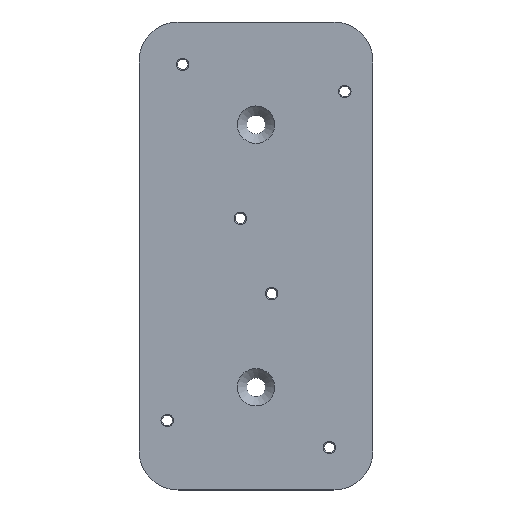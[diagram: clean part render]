
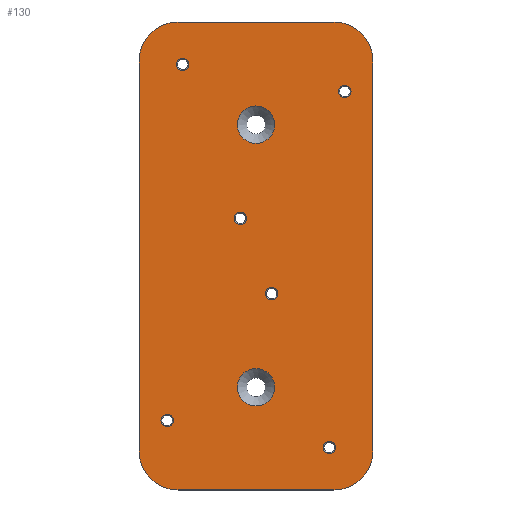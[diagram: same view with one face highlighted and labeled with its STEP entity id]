
A CAD part, top view. The second image highlights one B-rep face of the part: STEP entity #130.
In plain terms, the highlighted planar face has unit normal (0, 0, 1).
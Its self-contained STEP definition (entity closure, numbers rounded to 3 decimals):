
#66=FACE_BOUND('',#175,.T.);
#67=FACE_BOUND('',#176,.T.);
#68=FACE_BOUND('',#177,.T.);
#69=FACE_BOUND('',#178,.T.);
#70=FACE_BOUND('',#179,.T.);
#71=FACE_BOUND('',#180,.T.);
#72=FACE_BOUND('',#181,.T.);
#73=FACE_BOUND('',#182,.T.);
#74=FACE_BOUND('',#183,.T.);
#130=ADVANCED_FACE('',(#66,#67,#68,#69,#70,#71,#72,#73,#74),#161,.T.);
#161=PLANE('',#605);
#175=EDGE_LOOP('',(#255));
#176=EDGE_LOOP('',(#256));
#177=EDGE_LOOP('',(#257));
#178=EDGE_LOOP('',(#258));
#179=EDGE_LOOP('',(#259));
#180=EDGE_LOOP('',(#260));
#181=EDGE_LOOP('',(#261));
#182=EDGE_LOOP('',(#262));
#183=EDGE_LOOP('',(#263,#264,#265,#266,#267,#268,#269,#270));
#255=ORIENTED_EDGE('',*,*,#406,.T.);
#256=ORIENTED_EDGE('',*,*,#407,.T.);
#257=ORIENTED_EDGE('',*,*,#408,.F.);
#258=ORIENTED_EDGE('',*,*,#409,.F.);
#259=ORIENTED_EDGE('',*,*,#410,.F.);
#260=ORIENTED_EDGE('',*,*,#411,.F.);
#261=ORIENTED_EDGE('',*,*,#412,.F.);
#262=ORIENTED_EDGE('',*,*,#413,.F.);
#263=ORIENTED_EDGE('',*,*,#404,.T.);
#264=ORIENTED_EDGE('',*,*,#414,.T.);
#265=ORIENTED_EDGE('',*,*,#390,.T.);
#266=ORIENTED_EDGE('',*,*,#415,.T.);
#267=ORIENTED_EDGE('',*,*,#396,.T.);
#268=ORIENTED_EDGE('',*,*,#416,.T.);
#269=ORIENTED_EDGE('',*,*,#400,.T.);
#270=ORIENTED_EDGE('',*,*,#417,.T.);
#345=VERTEX_POINT('',#849);
#346=VERTEX_POINT('',#850);
#351=VERTEX_POINT('',#861);
#352=VERTEX_POINT('',#863);
#355=VERTEX_POINT('',#870);
#356=VERTEX_POINT('',#872);
#359=VERTEX_POINT('',#879);
#360=VERTEX_POINT('',#881);
#361=VERTEX_POINT('',#885);
#362=VERTEX_POINT('',#887);
#363=VERTEX_POINT('',#889);
#364=VERTEX_POINT('',#891);
#365=VERTEX_POINT('',#893);
#366=VERTEX_POINT('',#895);
#367=VERTEX_POINT('',#897);
#368=VERTEX_POINT('',#899);
#390=EDGE_CURVE('',#345,#346,#443,.T.);
#396=EDGE_CURVE('',#352,#351,#449,.T.);
#400=EDGE_CURVE('',#356,#355,#453,.T.);
#404=EDGE_CURVE('',#360,#359,#457,.T.);
#406=EDGE_CURVE('',#361,#361,#539,.T.);
#407=EDGE_CURVE('',#362,#362,#540,.T.);
#408=EDGE_CURVE('',#363,#363,#541,.T.);
#409=EDGE_CURVE('',#364,#364,#542,.T.);
#410=EDGE_CURVE('',#365,#365,#543,.T.);
#411=EDGE_CURVE('',#366,#366,#544,.T.);
#412=EDGE_CURVE('',#367,#367,#545,.T.);
#413=EDGE_CURVE('',#368,#368,#546,.T.);
#414=EDGE_CURVE('',#359,#345,#547,.T.);
#415=EDGE_CURVE('',#346,#352,#548,.T.);
#416=EDGE_CURVE('',#351,#356,#549,.T.);
#417=EDGE_CURVE('',#355,#360,#550,.T.);
#443=LINE('',#848,#459);
#449=LINE('',#862,#465);
#453=LINE('',#871,#469);
#457=LINE('',#880,#473);
#459=VECTOR('',#683,1.);
#465=VECTOR('',#691,1.);
#469=VECTOR('',#697,1.);
#473=VECTOR('',#703,1.);
#539=CIRCLE('',#593,12.);
#540=CIRCLE('',#594,12.);
#541=CIRCLE('',#595,4.);
#542=CIRCLE('',#596,4.);
#543=CIRCLE('',#597,4.);
#544=CIRCLE('',#598,4.);
#545=CIRCLE('',#599,4.);
#546=CIRCLE('',#600,4.);
#547=CIRCLE('',#601,25.);
#548=CIRCLE('',#602,25.);
#549=CIRCLE('',#603,25.);
#550=CIRCLE('',#604,25.);
#593=AXIS2_PLACEMENT_3D('',#884,#707,#708);
#594=AXIS2_PLACEMENT_3D('',#886,#709,#710);
#595=AXIS2_PLACEMENT_3D('',#888,#711,#712);
#596=AXIS2_PLACEMENT_3D('',#890,#713,#714);
#597=AXIS2_PLACEMENT_3D('',#892,#715,#716);
#598=AXIS2_PLACEMENT_3D('',#894,#717,#718);
#599=AXIS2_PLACEMENT_3D('',#896,#719,#720);
#600=AXIS2_PLACEMENT_3D('',#898,#721,#722);
#601=AXIS2_PLACEMENT_3D('',#900,#723,#724);
#602=AXIS2_PLACEMENT_3D('',#901,#725,#726);
#603=AXIS2_PLACEMENT_3D('',#902,#727,#728);
#604=AXIS2_PLACEMENT_3D('',#903,#729,#730);
#605=AXIS2_PLACEMENT_3D('',#904,#731,#732);
#683=DIRECTION('',(1.,0.,0.));
#691=DIRECTION('',(0.,1.,0.));
#697=DIRECTION('',(-1.,0.,0.));
#703=DIRECTION('',(0.,-1.,0.));
#707=DIRECTION('',(0.,0.,-1.));
#708=DIRECTION('',(1.,0.,0.));
#709=DIRECTION('',(0.,0.,-1.));
#710=DIRECTION('',(1.,0.,0.));
#711=DIRECTION('',(0.,0.,1.));
#712=DIRECTION('',(1.,0.,0.));
#713=DIRECTION('',(0.,0.,1.));
#714=DIRECTION('',(1.,0.,0.));
#715=DIRECTION('',(0.,0.,1.));
#716=DIRECTION('',(1.,0.,0.));
#717=DIRECTION('',(0.,0.,1.));
#718=DIRECTION('',(1.,0.,0.));
#719=DIRECTION('',(0.,0.,1.));
#720=DIRECTION('',(1.,0.,0.));
#721=DIRECTION('',(0.,0.,1.));
#722=DIRECTION('',(1.,0.,0.));
#723=DIRECTION('',(0.,0.,1.));
#724=DIRECTION('',(1.,0.,0.));
#725=DIRECTION('',(0.,0.,1.));
#726=DIRECTION('',(1.,0.,0.));
#727=DIRECTION('',(0.,0.,1.));
#728=DIRECTION('',(1.,0.,0.));
#729=DIRECTION('',(0.,0.,1.));
#730=DIRECTION('',(1.,0.,0.));
#731=DIRECTION('',(0.,0.,1.));
#732=DIRECTION('',(1.,0.,0.));
#848=CARTESIAN_POINT('',(0.,-65.845,20.));
#849=CARTESIAN_POINT('',(25.,-65.845,20.));
#850=CARTESIAN_POINT('',(125.,-65.845,20.));
#861=CARTESIAN_POINT('',(150.,209.155,20.));
#862=CARTESIAN_POINT('',(150.,-65.845,20.));
#863=CARTESIAN_POINT('',(150.,-40.845,20.));
#870=CARTESIAN_POINT('',(25.,234.155,20.));
#871=CARTESIAN_POINT('',(150.,234.155,20.));
#872=CARTESIAN_POINT('',(125.,234.155,20.));
#879=CARTESIAN_POINT('',(0.,-40.845,20.));
#880=CARTESIAN_POINT('',(0.,168.31,20.));
#881=CARTESIAN_POINT('',(0.,209.155,20.));
#884=CARTESIAN_POINT('',(75.,0.,20.));
#885=CARTESIAN_POINT('',(87.,0.,20.));
#886=CARTESIAN_POINT('',(75.,168.31,20.));
#887=CARTESIAN_POINT('',(87.,168.31,20.));
#888=CARTESIAN_POINT('',(18.038,-21.34,20.));
#889=CARTESIAN_POINT('',(22.038,-21.34,20.));
#890=CARTESIAN_POINT('',(85.,60.,20.));
#891=CARTESIAN_POINT('',(89.,60.,20.));
#892=CARTESIAN_POINT('',(121.962,-38.66,20.));
#893=CARTESIAN_POINT('',(125.962,-38.66,20.));
#894=CARTESIAN_POINT('',(65.,108.31,20.));
#895=CARTESIAN_POINT('',(69.,108.31,20.));
#896=CARTESIAN_POINT('',(28.038,206.97,20.));
#897=CARTESIAN_POINT('',(32.038,206.97,20.));
#898=CARTESIAN_POINT('',(131.962,189.65,20.));
#899=CARTESIAN_POINT('',(135.962,189.65,20.));
#900=CARTESIAN_POINT('',(25.,-40.845,20.));
#901=CARTESIAN_POINT('',(125.,-40.845,20.));
#902=CARTESIAN_POINT('',(125.,209.155,20.));
#903=CARTESIAN_POINT('',(25.,209.155,20.));
#904=CARTESIAN_POINT('',(0.,0.,20.));
